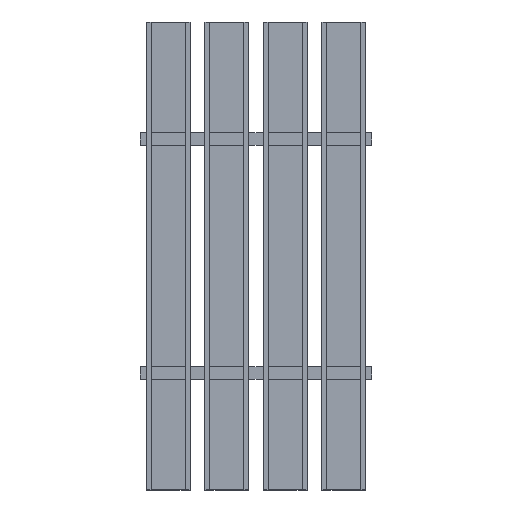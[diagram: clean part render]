
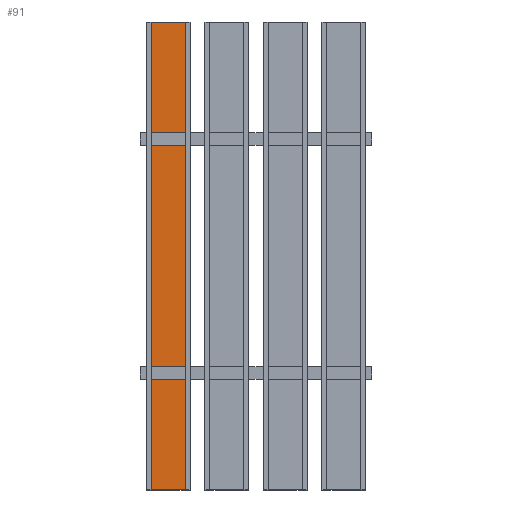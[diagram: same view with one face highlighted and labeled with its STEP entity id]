
A CAD part, top view. The second image highlights one B-rep face of the part: STEP entity #91.
In plain terms, the highlighted planar face has unit normal (0, 0, 1).
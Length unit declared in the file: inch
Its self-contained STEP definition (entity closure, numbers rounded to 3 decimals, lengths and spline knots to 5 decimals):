
#91=ADVANCED_FACE('',(#207),#1927,.T.);
#207=FACE_OUTER_BOUND('',#331,.T.);
#331=EDGE_LOOP('',(#642,#643,#644,#645));
#642=ORIENTED_EDGE('',*,*,#1176,.F.);
#643=ORIENTED_EDGE('',*,*,#1196,.T.);
#644=ORIENTED_EDGE('',*,*,#1182,.F.);
#645=ORIENTED_EDGE('',*,*,#1193,.F.);
#1176=EDGE_CURVE('',#1764,#1765,#1488,.T.);
#1182=EDGE_CURVE('',#1770,#1771,#1494,.T.);
#1193=EDGE_CURVE('',#1765,#1770,#1505,.T.);
#1196=EDGE_CURVE('',#1764,#1771,#1508,.T.);
#1488=B_SPLINE_CURVE_WITH_KNOTS('',1,(#2903,#2904),.UNSPECIFIED.,.F.,.F.,
(2,2),(0.,48.),.UNSPECIFIED.);
#1494=B_SPLINE_CURVE_WITH_KNOTS('',1,(#2915,#2916),.UNSPECIFIED.,.F.,.F.,
(2,2),(0.,48.),.UNSPECIFIED.);
#1505=B_SPLINE_CURVE_WITH_KNOTS('',1,(#2937,#2938),.UNSPECIFIED.,.F.,.F.,
(2,2),(0.,3.5),.UNSPECIFIED.);
#1508=B_SPLINE_CURVE_WITH_KNOTS('',1,(#2943,#2944),.UNSPECIFIED.,.F.,.F.,
(2,2),(0.,3.5),.UNSPECIFIED.);
#1764=VERTEX_POINT('',#2533);
#1765=VERTEX_POINT('',#2534);
#1770=VERTEX_POINT('',#2539);
#1771=VERTEX_POINT('',#2540);
#1927=PLANE('',#2134);
#2134=AXIS2_PLACEMENT_3D('',#2372,#2253,$);
#2253=DIRECTION('',(0.,0.,1.));
#2372=CARTESIAN_POINT('',(-15.89528,28.80472,-0.5));
#2533=CARTESIAN_POINT('',(-19.75,-24.,-0.5));
#2534=CARTESIAN_POINT('',(-19.75,24.,-0.5));
#2539=CARTESIAN_POINT('',(-16.25,24.,-0.5));
#2540=CARTESIAN_POINT('',(-16.25,-24.,-0.5));
#2903=CARTESIAN_POINT('',(-19.75,-24.,-0.5));
#2904=CARTESIAN_POINT('',(-19.75,24.,-0.5));
#2915=CARTESIAN_POINT('',(-16.25,24.,-0.5));
#2916=CARTESIAN_POINT('',(-16.25,-24.,-0.5));
#2937=CARTESIAN_POINT('',(-19.75,24.,-0.5));
#2938=CARTESIAN_POINT('',(-16.25,24.,-0.5));
#2943=CARTESIAN_POINT('',(-19.75,-24.,-0.5));
#2944=CARTESIAN_POINT('',(-16.25,-24.,-0.5));
